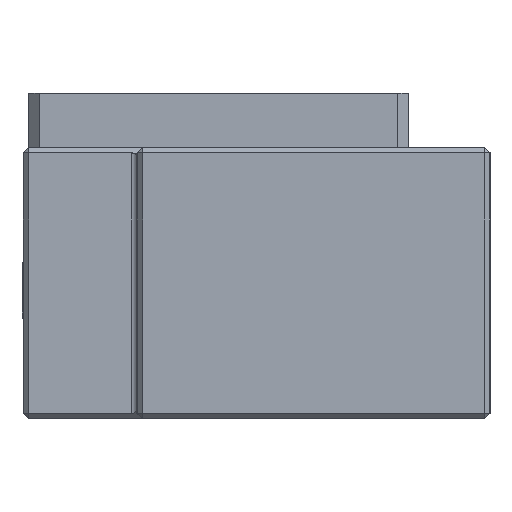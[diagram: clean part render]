
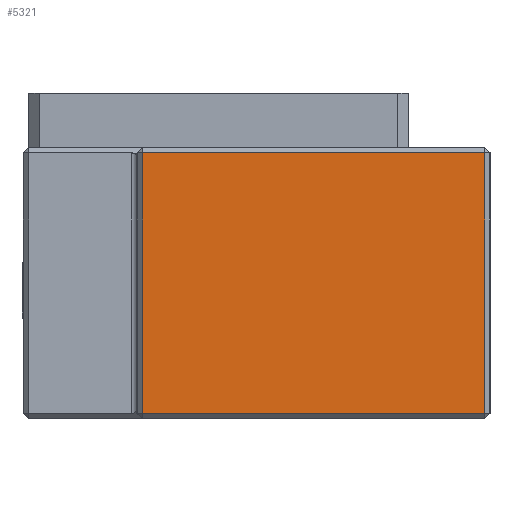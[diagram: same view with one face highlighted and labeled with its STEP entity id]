
A CAD part, left-side view. The second image highlights one B-rep face of the part: STEP entity #5321.
In plain terms, the highlighted planar face has unit normal (-1, 0, 0).
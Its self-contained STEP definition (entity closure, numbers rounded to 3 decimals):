
#98 = EDGE_CURVE ( 'NONE', #8875, #13779, #8396, .T. ) ;
#727 = VECTOR ( 'NONE', #7355, 1000. ) ;
#1080 = CARTESIAN_POINT ( 'NONE',  ( -30., 10.5, 12. ) ) ;
#1552 = EDGE_LOOP ( 'NONE', ( #13384, #14964, #3277, #6273 ) ) ;
#1644 = LINE ( 'NONE', #12962, #10669 ) ;
#1772 = CARTESIAN_POINT ( 'NONE',  ( -30., -21., 12.5 ) ) ;
#2515 = CARTESIAN_POINT ( 'NONE',  ( -30., -21., -12. ) ) ;
#3020 = VERTEX_POINT ( 'NONE', #4152 ) ;
#3229 = DIRECTION ( 'NONE',  ( 0., 0., 1. ) ) ;
#3277 = ORIENTED_EDGE ( 'NONE', *, *, #98, .T. ) ;
#3652 = VECTOR ( 'NONE', #7701, 1000. ) ;
#3844 = LINE ( 'NONE', #12931, #727 ) ;
#4152 = CARTESIAN_POINT ( 'NONE',  ( -30., 10.5, -12. ) ) ;
#4350 = PLANE ( 'NONE',  #14950 ) ;
#5254 = VECTOR ( 'NONE', #3229, 1000. ) ;
#5321 = ADVANCED_FACE ( 'NONE', ( #8600 ), #4350, .F. ) ;
#5541 = DIRECTION ( 'NONE',  ( 0., 0., -1. ) ) ;
#6212 = VERTEX_POINT ( 'NONE', #1080 ) ;
#6273 = ORIENTED_EDGE ( 'NONE', *, *, #13459, .T. ) ;
#6509 = CARTESIAN_POINT ( 'NONE',  ( -30., -21.5, 12. ) ) ;
#7204 = LINE ( 'NONE', #6509, #3652 ) ;
#7355 = DIRECTION ( 'NONE',  ( 0., -1., 0. ) ) ;
#7701 = DIRECTION ( 'NONE',  ( 0., 1., 0. ) ) ;
#8396 = LINE ( 'NONE', #1772, #5254 ) ;
#8476 = CARTESIAN_POINT ( 'NONE',  ( -30., -21., 12. ) ) ;
#8600 = FACE_OUTER_BOUND ( 'NONE', #1552, .T. ) ;
#8875 = VERTEX_POINT ( 'NONE', #2515 ) ;
#9023 = CARTESIAN_POINT ( 'NONE',  ( -30., -21.5, 12.5 ) ) ;
#9304 = EDGE_CURVE ( 'NONE', #6212, #3020, #1644, .T. ) ;
#10669 = VECTOR ( 'NONE', #11868, 1000. ) ;
#11868 = DIRECTION ( 'NONE',  ( 0., 0., -1. ) ) ;
#12518 = DIRECTION ( 'NONE',  ( 1., 0., 0. ) ) ;
#12931 = CARTESIAN_POINT ( 'NONE',  ( -30., -21.5, -12. ) ) ;
#12962 = CARTESIAN_POINT ( 'NONE',  ( -30., 10.5, 12.5 ) ) ;
#13335 = EDGE_CURVE ( 'NONE', #3020, #8875, #3844, .T. ) ;
#13384 = ORIENTED_EDGE ( 'NONE', *, *, #9304, .T. ) ;
#13459 = EDGE_CURVE ( 'NONE', #13779, #6212, #7204, .T. ) ;
#13779 = VERTEX_POINT ( 'NONE', #8476 ) ;
#14950 = AXIS2_PLACEMENT_3D ( 'NONE', #9023, #12518, #5541 ) ;
#14964 = ORIENTED_EDGE ( 'NONE', *, *, #13335, .T. ) ;
